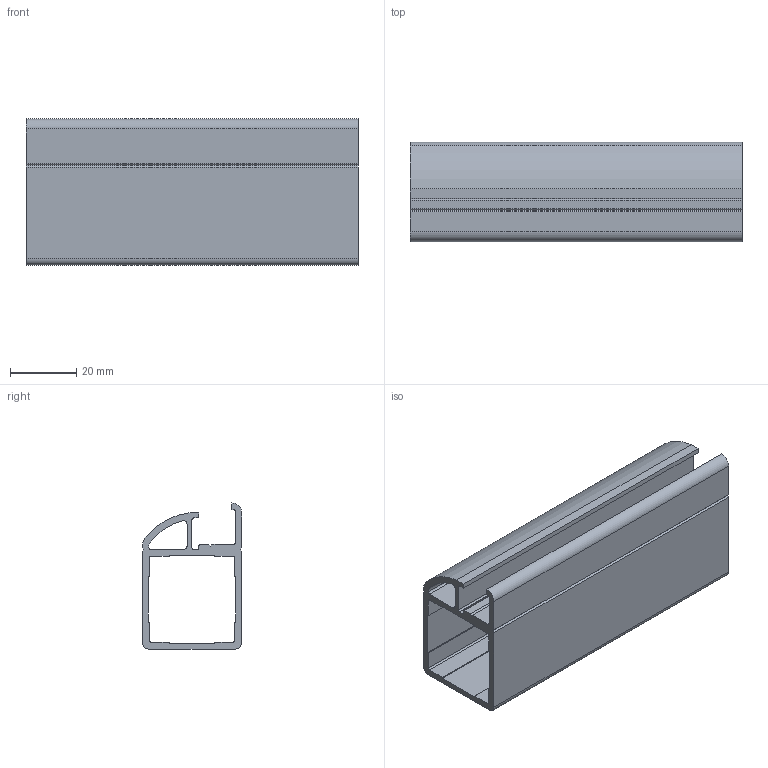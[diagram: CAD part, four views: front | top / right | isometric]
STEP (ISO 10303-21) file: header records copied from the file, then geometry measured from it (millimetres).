
FILE_DESCRIPTION (( 'STEP AP203' ), '1' );
FILE_NAME ('B30031A.STEP', '2017-03-22T11:29:10', ( 'Localadmin' ), ( 'Microsoft' ), 'SwSTEP 2.0', 'SolidWorks 2016', '' );
FILE_SCHEMA (( 'CONFIG_CONTROL_DESIGN' ));
Length unit declared in the file: millimetre
Products named in the file (1): B30031A
Bounding box: 100 x 30 x 44 mm (x, y, z)
Volume: 31464 mm3; surface area: 31264.6 mm2
Topology: 1 solids, 1 shells, 66 faces, 192 edges, 128 vertices
Faces by surface type: plane 45, cylinder 21
Entity records: 2263 total; most frequent: CARTESIAN_POINT 387, ORIENTED_EDGE 384, DIRECTION 368, EDGE_CURVE 192, LINE 150, VECTOR 150, VERTEX_POINT 128, AXIS2_PLACEMENT_3D 109
